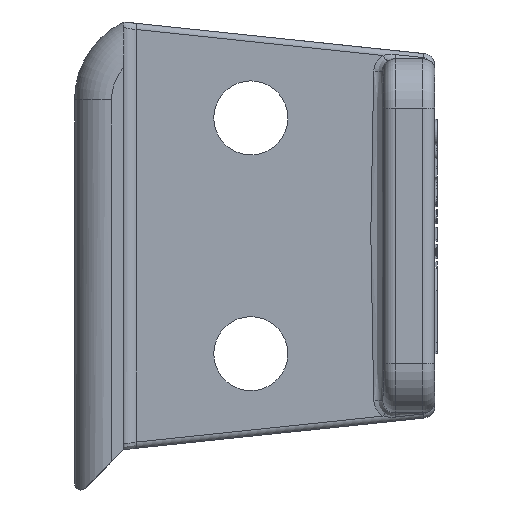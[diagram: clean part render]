
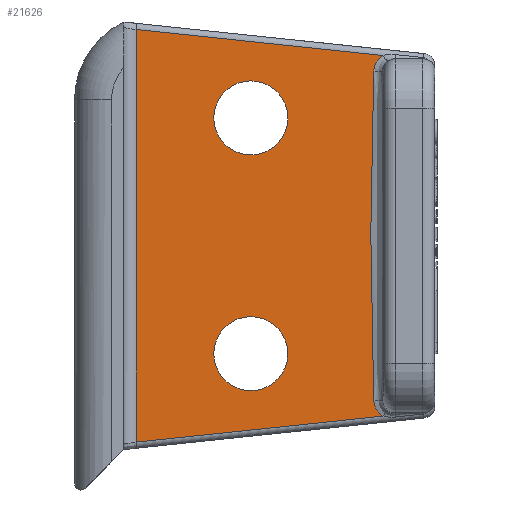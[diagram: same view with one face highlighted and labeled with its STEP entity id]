
A CAD part, left-side view. The second image highlights one B-rep face of the part: STEP entity #21626.
In plain terms, the highlighted planar face has unit normal (-1, 0, 0).
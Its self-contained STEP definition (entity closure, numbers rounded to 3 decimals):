
#7251=CARTESIAN_POINT('',(-15.95,-21.005,-16.767));
#7294=CARTESIAN_POINT('',(-15.95,-10.3,-11.706));
#7295=DIRECTION('',(-1.,0.,0.));
#7296=DIRECTION('',(0.,1.,0.));
#7297=AXIS2_PLACEMENT_3D('',#7294,#7295,#7296);
#7299=CARTESIAN_POINT('',(-15.95,-10.3,-11.706));
#7300=DIRECTION('',(-1.,0.,0.));
#7301=DIRECTION('',(0.,-1.,0.));
#7302=AXIS2_PLACEMENT_3D('',#7299,#7300,#7301);
#7304=CARTESIAN_POINT('',(-15.95,-10.3,7.394));
#7305=DIRECTION('',(-1.,0.,0.));
#7306=DIRECTION('',(0.,1.,0.));
#7307=AXIS2_PLACEMENT_3D('',#7304,#7305,#7306);
#7309=CARTESIAN_POINT('',(-15.95,-10.3,7.394));
#7310=DIRECTION('',(-1.,0.,0.));
#7311=DIRECTION('',(0.,-1.,0.));
#7312=AXIS2_PLACEMENT_3D('',#7309,#7310,#7311);
#7314=CARTESIAN_POINT('',(-15.95,-20.255,-15.506));
#7315=CARTESIAN_POINT('',(-15.95,-20.258,
-15.539));
#7316=CARTESIAN_POINT('',(-15.95,-20.266,
-15.603));
#7317=CARTESIAN_POINT('',(-15.95,-20.284,
-15.699));
#7318=CARTESIAN_POINT('',(-15.95,-20.306,
-15.794));
#7319=CARTESIAN_POINT('',(-15.95,-20.334,
-15.887));
#7320=CARTESIAN_POINT('',(-15.95,-20.366,
-15.977));
#7321=CARTESIAN_POINT('',(-15.95,-20.404,
-16.065));
#7322=CARTESIAN_POINT('',(-15.95,-20.446,
-16.151));
#7323=CARTESIAN_POINT('',(-15.95,-20.493,-16.234));
#7324=CARTESIAN_POINT('',(-15.95,-20.544,
-16.314));
#7325=CARTESIAN_POINT('',(-15.95,-20.599,
-16.39));
#7326=CARTESIAN_POINT('',(-15.95,-20.658,
-16.463));
#7327=CARTESIAN_POINT('',(-15.95,-20.721,
-16.532));
#7328=CARTESIAN_POINT('',(-15.95,-20.787,
-16.597));
#7329=CARTESIAN_POINT('',(-15.95,-20.857,
-16.658));
#7330=CARTESIAN_POINT('',(-15.95,-20.929,
-16.715));
#7331=CARTESIAN_POINT('',(-15.95,-20.979,
-16.75));
#7332=CARTESIAN_POINT('',(-15.95,-21.005,-16.767));
#7334=DIRECTION('',(0.,-0.995,0.105));
#7335=VECTOR('',#7334,20.115);
#7336=CARTESIAN_POINT('',(-15.95,-1.,
-18.869));
#7337=LINE('',#7336,#7335);
#7338=DIRECTION('',(0.,0.,-1.));
#7339=VECTOR('',#7338,33.426);
#7340=CARTESIAN_POINT('',(-15.95,-1.,
14.557));
#7341=LINE('',#7340,#7339);
#7342=DIRECTION('',(0.,0.995,0.105));
#7343=VECTOR('',#7342,20.115);
#7344=CARTESIAN_POINT('',(-15.95,-21.005,12.455));
#7345=LINE('',#7344,#7343);
#7346=CARTESIAN_POINT('',(-15.95,-21.005,12.455));
#7347=CARTESIAN_POINT('',(-15.95,-20.979,
12.438));
#7348=CARTESIAN_POINT('',(-15.95,-20.929,
12.403));
#7349=CARTESIAN_POINT('',(-15.95,-20.857,
12.346));
#7350=CARTESIAN_POINT('',(-15.95,-20.787,
12.285));
#7351=CARTESIAN_POINT('',(-15.95,-20.721,
12.22));
#7352=CARTESIAN_POINT('',(-15.95,-20.658,
12.151));
#7353=CARTESIAN_POINT('',(-15.95,-20.599,
12.078));
#7354=CARTESIAN_POINT('',(-15.95,-20.543,
12.001));
#7355=CARTESIAN_POINT('',(-15.95,-20.492,11.922));
#7356=CARTESIAN_POINT('',(-15.95,-20.446,
11.839));
#7357=CARTESIAN_POINT('',(-15.95,-20.404,
11.753));
#7358=CARTESIAN_POINT('',(-15.95,-20.366,
11.665));
#7359=CARTESIAN_POINT('',(-15.95,-20.334,
11.574));
#7360=CARTESIAN_POINT('',(-15.95,-20.306,
11.482));
#7361=CARTESIAN_POINT('',(-15.95,-20.284,
11.387));
#7362=CARTESIAN_POINT('',(-15.95,-20.266,
11.291));
#7363=CARTESIAN_POINT('',(-15.95,-20.258,
11.227));
#7364=CARTESIAN_POINT('',(-15.95,-20.255,11.194));
#7366=CARTESIAN_POINT('',(-15.95,-20.255,11.194));
#7367=CARTESIAN_POINT('',(-15.95,-20.225,10.872));
#7368=CARTESIAN_POINT('',(-15.95,-20.167,10.177));
#7369=CARTESIAN_POINT('',(-15.95,-20.098,9.004));
#7370=CARTESIAN_POINT('',(-15.95,-20.049,7.645));
#7371=CARTESIAN_POINT('',(-15.95,-20.024,6.092));
#7372=CARTESIAN_POINT('',(-15.95,-20.019,4.321));
#7373=CARTESIAN_POINT('',(-15.95,-20.02,2.386));
#7374=CARTESIAN_POINT('',(-15.95,-20.02,0.3));
#7375=CARTESIAN_POINT('',(-15.95,-20.02,-1.921));
#7376=CARTESIAN_POINT('',(-15.95,-20.02,-4.391));
#7377=CARTESIAN_POINT('',(-15.95,-20.02,-6.669));
#7378=CARTESIAN_POINT('',(-15.95,-20.019,-8.639));
#7379=CARTESIAN_POINT('',(-15.95,-20.024,-10.403));
#7380=CARTESIAN_POINT('',(-15.95,-20.049,-11.957));
#7381=CARTESIAN_POINT('',(-15.95,-20.098,-13.315));
#7382=CARTESIAN_POINT('',(-15.95,-20.167,-14.489));
#7383=CARTESIAN_POINT('',(-15.95,-20.225,-15.184));
#7384=CARTESIAN_POINT('',(-15.95,-20.255,-15.506));
#7766=CARTESIAN_POINT('',(-15.95,-1.,
14.557));
#7790=CARTESIAN_POINT('',(-15.95,-1.,
-18.869));
#8106=CARTESIAN_POINT('',(-15.95,-7.3,-11.706));
#8107=CARTESIAN_POINT('',(-15.95,-13.3,-11.706));
#8108=VERTEX_POINT('',#8106);
#8109=VERTEX_POINT('',#8107);
#8110=CARTESIAN_POINT('',(-15.95,-7.3,7.394));
#8111=CARTESIAN_POINT('',(-15.95,-13.3,7.394));
#8112=VERTEX_POINT('',#8110);
#8113=VERTEX_POINT('',#8111);
#9715=VERTEX_POINT('',#7766);
#9730=VERTEX_POINT('',#7790);
#9804=VERTEX_POINT('',#7251);
#9806=VERTEX_POINT('',#7314);
#9808=VERTEX_POINT('',#7366);
#9810=VERTEX_POINT('',#7346);
#21598=CARTESIAN_POINT('',(-15.95,0.,0.));
#21599=DIRECTION('',(1.,0.,0.));
#21600=DIRECTION('',(0.,1.,0.));
#21601=AXIS2_PLACEMENT_3D('',#21598,#21599,#21600);
#21602=PLANE('',#21601);
#21603=ORIENTED_EDGE('',*,*,#21588,.T.);
#21604=ORIENTED_EDGE('',*,*,#21332,.F.);
#21606=ORIENTED_EDGE('',*,*,#21605,.F.);
#21607=ORIENTED_EDGE('',*,*,#21025,.F.);
#21609=ORIENTED_EDGE('',*,*,#21608,.T.);
#21611=ORIENTED_EDGE('',*,*,#21610,.T.);
#21612=EDGE_LOOP('',(#21603,#21604,#21606,#21607,#21609,#21611));
#21613=FACE_OUTER_BOUND('',#21612,.F.);
#21615=ORIENTED_EDGE('',*,*,#21614,.T.);
#21617=ORIENTED_EDGE('',*,*,#21616,.T.);
#21618=EDGE_LOOP('',(#21615,#21617));
#21619=FACE_BOUND('',#21618,.F.);
#21621=ORIENTED_EDGE('',*,*,#21620,.T.);
#21623=ORIENTED_EDGE('',*,*,#21622,.T.);
#21624=EDGE_LOOP('',(#21621,#21623));
#21625=FACE_BOUND('',#21624,.F.);
#21626=ADVANCED_FACE('',(#21613,#21619,#21625),#21602,.F.);
#7298=CIRCLE('',#7297,3.);
#7303=CIRCLE('',#7302,3.);
#7308=CIRCLE('',#7307,3.);
#7313=CIRCLE('',#7312,3.);
#7333=B_SPLINE_CURVE_WITH_KNOTS('',3,(#7314,#7315,#7316,#7317,#7318,#7319,#7320,
#7321,#7322,#7323,#7324,#7325,#7326,#7327,#7328,#7329,#7330,#7331,#7332),
.UNSPECIFIED.,.F.,.F.,(4,1,1,1,1,1,1,1,1,1,1,1,1,1,1,1,4),(0.,0.063,0.125,
0.188,0.25,0.313,0.375,0.438,0.5,0.563,0.625,0.688,
0.75,0.813,0.875,0.938,1.),.UNSPECIFIED.);
#7365=B_SPLINE_CURVE_WITH_KNOTS('',3,(#7346,#7347,#7348,#7349,#7350,#7351,#7352,
#7353,#7354,#7355,#7356,#7357,#7358,#7359,#7360,#7361,#7362,#7363,#7364),
.UNSPECIFIED.,.F.,.F.,(4,1,1,1,1,1,1,1,1,1,1,1,1,1,1,1,4),(0.,0.063,0.125,
0.188,0.25,0.313,0.375,0.438,0.5,0.563,0.625,0.688,
0.75,0.813,0.875,0.938,1.),.UNSPECIFIED.);
#7385=B_SPLINE_CURVE_WITH_KNOTS('',3,(#7366,#7367,#7368,#7369,#7370,#7371,#7372,
#7373,#7374,#7375,#7376,#7377,#7378,#7379,#7380,#7381,#7382,#7383,#7384),
.UNSPECIFIED.,.F.,.F.,(4,1,1,1,1,1,1,1,1,1,1,1,1,1,1,1,4),(0.,0.063,0.125,
0.188,0.25,0.313,0.375,0.438,0.5,0.563,0.625,0.688,
0.75,0.813,0.875,0.938,1.),.UNSPECIFIED.);
#21025=EDGE_CURVE('',#9810,#9715,#7345,.T.);
#21332=EDGE_CURVE('',#9730,#9804,#7337,.T.);
#21588=EDGE_CURVE('',#9806,#9804,#7333,.T.);
#21605=EDGE_CURVE('',#9715,#9730,#7341,.T.);
#21608=EDGE_CURVE('',#9810,#9808,#7365,.T.);
#21610=EDGE_CURVE('',#9808,#9806,#7385,.T.);
#21614=EDGE_CURVE('',#8112,#8113,#7308,.T.);
#21616=EDGE_CURVE('',#8113,#8112,#7313,.T.);
#21620=EDGE_CURVE('',#8108,#8109,#7298,.T.);
#21622=EDGE_CURVE('',#8109,#8108,#7303,.T.);
